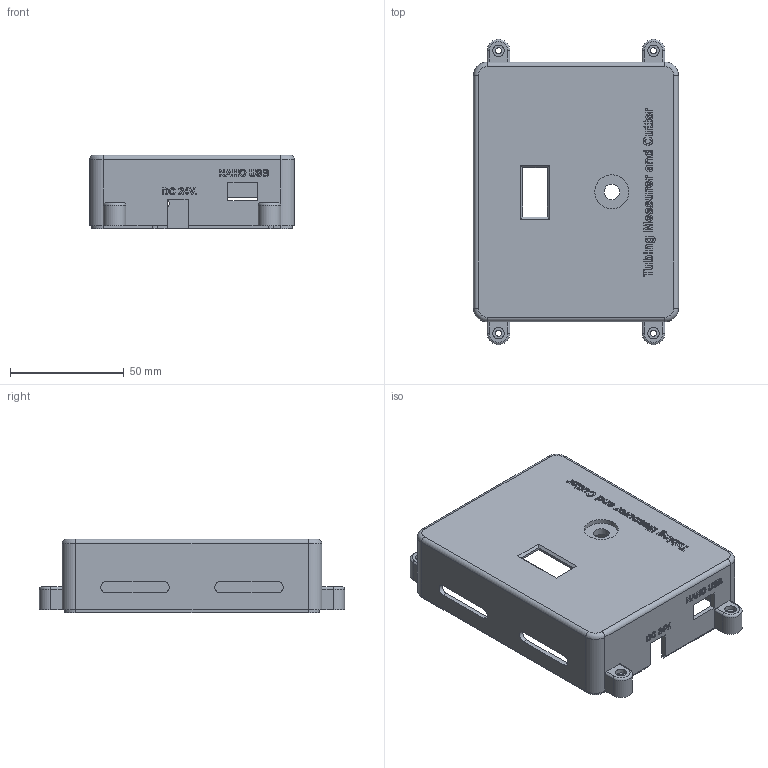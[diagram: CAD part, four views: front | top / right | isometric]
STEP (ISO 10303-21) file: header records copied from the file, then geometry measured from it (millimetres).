
FILE_DESCRIPTION(/* description */ (''),/* implementation_level */ '2;1');
FILE_NAME(/* name */ 'Enclosure_top.step',/* time_stamp */ '2025-06-19T00:12:48-07:00',/* author */ (''),/* organization */ (''),/* preprocessor_version */ 'ST-DEVELOPER v20.1',/* originating_system */ 'Autodesk Translation Framework v14.10.0.0',/* authorisation */ '');
FILE_SCHEMA (('AUTOMOTIVE_DESIGN { 1 0 10303 214 3 1 1 }'));
Length unit declared in the file: millimetre
Products named in the file (1): Enclosure_top
Bounding box: 90 x 133.97 x 32.4 mm (x, y, z)
Volume: 45458.7 mm3; surface area: 46015.9 mm2
Topology: 1 solids, 1 shells, 857 faces, 2345 edges, 1554 vertices
Faces by surface type: bspline 429, plane 364, cylinder 56, torus 8
Full cylindrical faces by diameter (mm): 1.3 x4, 2.6 x4, 3.2 x4, 5 x4, 6.8 x1, 15 x1
Entity records: 31015 total; most frequent: CARTESIAN_POINT 12050, ORIENTED_EDGE 4690, DIRECTION 2471, EDGE_CURVE 2345, VERTEX_POINT 1554, LINE 1361, VECTOR 1361, EDGE_LOOP 943
